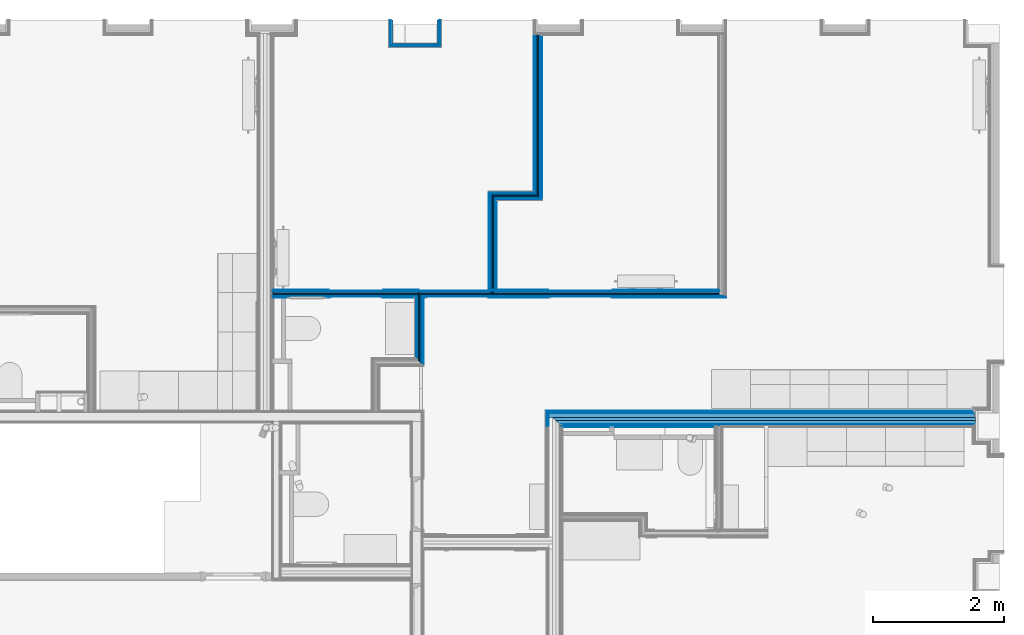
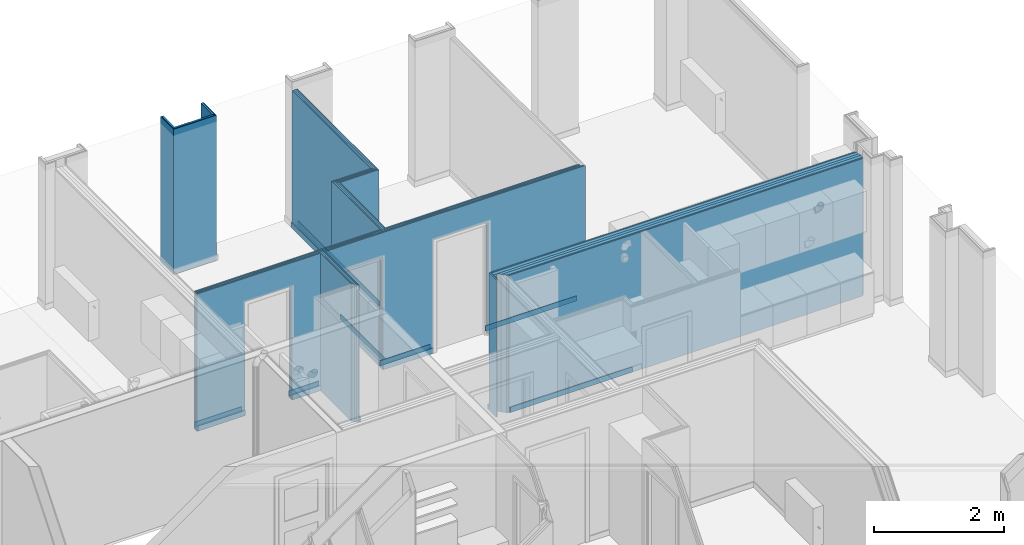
# One storey, part 22 of 85: 62 building element parts, 3 openings, 11 elements without a shape of their own.
"""IFC2X3 building model written with IfcOpenShell, lengths in metres."""

from ifc_helpers import new_model, entity, si_unit, converted_unit, derived_unit, money_unit, direction, frame, frame_2d, origin_with_axes, place, context, subcontext, project, spatial, polyline, rectangle, outline, extrude, material, type_object, element, aggregate, save


model = new_model("IFC2X3")

# Units and contexts
model_context = context("Model", 3, precision=1e-05, world=origin_with_axes(), true_north=direction((0.0, 1.0)))
body_context = subcontext(model_context, "Body", "Model", "MODEL_VIEW", scale=1.0)
ifc_project = project(units=[si_unit("LENGTHUNIT", "METRE"), si_unit("AREAUNIT", "SQUARE_METRE"), si_unit("VOLUMEUNIT", "CUBIC_METRE"), si_unit("ABSORBEDDOSEUNIT", "GRAY"), si_unit("AMOUNTOFSUBSTANCEUNIT", "MOLE"), si_unit("DOSEEQUIVALENTUNIT", "SIEVERT"), si_unit("ELECTRICCAPACITANCEUNIT", "FARAD"), si_unit("ELECTRICCHARGEUNIT", "COULOMB"), si_unit("ELECTRICCONDUCTANCEUNIT", "SIEMENS"), si_unit("ELECTRICCURRENTUNIT", "AMPERE"), si_unit("ELECTRICRESISTANCEUNIT", "OHM"), si_unit("ELECTRICVOLTAGEUNIT", "VOLT"), si_unit("ENERGYUNIT", "JOULE"), si_unit("FORCEUNIT", "NEWTON"), si_unit("FREQUENCYUNIT", "HERTZ"), si_unit("ILLUMINANCEUNIT", "LUX"), si_unit("INDUCTANCEUNIT", "HENRY"), si_unit("LUMINOUSFLUXUNIT", "LUMEN"), si_unit("LUMINOUSINTENSITYUNIT", "CANDELA"), si_unit("MAGNETICFLUXDENSITYUNIT", "TESLA"), si_unit("MAGNETICFLUXUNIT", "WEBER"), si_unit("MASSUNIT", "GRAM"), converted_unit("PLANEANGLEUNIT", "degree", entity("IfcReal", 0.0174532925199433), si_unit("PLANEANGLEUNIT", "RADIAN"), dimensions=[0, 0, 0, 0, 0, 0, 0]), si_unit("POWERUNIT", "WATT"), si_unit("PRESSUREUNIT", "PASCAL"), si_unit("RADIOACTIVITYUNIT", "BECQUEREL"), si_unit("SOLIDANGLEUNIT", "STERADIAN"), si_unit("THERMODYNAMICTEMPERATUREUNIT", "KELVIN"), si_unit("TIMEUNIT", "SECOND"), derived_unit("ACCELERATIONUNIT", [(si_unit("LENGTHUNIT", "METRE"), 1), (si_unit("TIMEUNIT", "SECOND"), -2)]), derived_unit("ANGULARVELOCITYUNIT", [(converted_unit("PLANEANGLEUNIT", "degree", entity("IfcReal", 0.0174532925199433), si_unit("PLANEANGLEUNIT", "RADIAN"), dimensions=[0, 0, 0, 0, 0, 0, 0]), 1), (si_unit("TIMEUNIT", "SECOND"), -1)]), derived_unit("CURVATUREUNIT", [(converted_unit("PLANEANGLEUNIT", "degree", entity("IfcReal", 0.0174532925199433), si_unit("PLANEANGLEUNIT", "RADIAN"), dimensions=[0, 0, 0, 0, 0, 0, 0]), 1), (si_unit("LENGTHUNIT", "METRE"), -1)]), derived_unit("DYNAMICVISCOSITYUNIT", [(si_unit("PRESSUREUNIT", "PASCAL"), 1), (si_unit("TIMEUNIT", "SECOND"), 1)]), derived_unit("HEATFLUXDENSITYUNIT", [(si_unit("POWERUNIT", "WATT"), 1), (si_unit("LENGTHUNIT", "METRE"), -2)]), derived_unit("HEATINGVALUEUNIT", [(si_unit("ENERGYUNIT", "JOULE"), 1), (si_unit("MASSUNIT", "GRAM"), -1)]), derived_unit("INTEGERCOUNTRATEUNIT", [(si_unit("TIMEUNIT", "SECOND"), -1)]), derived_unit("IONCONCENTRATIONUNIT", [(si_unit("MASSUNIT", "GRAM"), 1), (si_unit("VOLUMEUNIT", "CUBIC_METRE"), -1)]), derived_unit("ISOTHERMALMOISTURECAPACITYUNIT", [(si_unit("VOLUMEUNIT", "CUBIC_METRE"), 1), (si_unit("MASSUNIT", "GRAM"), -1)]), derived_unit("KINEMATICVISCOSITYUNIT", [(si_unit("AREAUNIT", "SQUARE_METRE"), 1), (si_unit("TIMEUNIT", "SECOND"), -1)]), derived_unit("LINEARFORCEUNIT", [(si_unit("FORCEUNIT", "NEWTON"), 1), (si_unit("LENGTHUNIT", "METRE"), -1)]), derived_unit("LINEARMOMENTUNIT", [(si_unit("FORCEUNIT", "NEWTON"), 1), (si_unit("LENGTHUNIT", "METRE"), -1)]), derived_unit("LINEARSTIFFNESSUNIT", [(si_unit("FORCEUNIT", "NEWTON"), 1), (si_unit("LENGTHUNIT", "METRE"), -1)]), derived_unit("LINEARVELOCITYUNIT", [(si_unit("LENGTHUNIT", "METRE"), 1), (si_unit("TIMEUNIT", "SECOND"), -1)]), derived_unit("LUMINOUSINTENSITYDISTRIBUTIONUNIT", [(si_unit("LUMINOUSINTENSITYUNIT", "CANDELA"), 1), (si_unit("LUMINOUSFLUXUNIT", "LUMEN"), -1)]), derived_unit("MASSDENSITYUNIT", [(si_unit("MASSUNIT", "GRAM"), 1), (si_unit("VOLUMEUNIT", "CUBIC_METRE"), -1)]), derived_unit("MASSFLOWRATEUNIT", [(si_unit("MASSUNIT", "GRAM"), 1), (si_unit("TIMEUNIT", "SECOND"), -1)]), derived_unit("MASSPERLENGTHUNIT", [(si_unit("MASSUNIT", "GRAM"), 1), (si_unit("LENGTHUNIT", "METRE"), -1)]), derived_unit("MODULUSOFELASTICITYUNIT", [(si_unit("FORCEUNIT", "NEWTON"), 1), (si_unit("AREAUNIT", "SQUARE_METRE"), -1)]), derived_unit("MODULUSOFLINEARSUBGRADEREACTIONUNIT", [(si_unit("FORCEUNIT", "NEWTON"), 1), (si_unit("LENGTHUNIT", "METRE"), -2)]), derived_unit("MODULUSOFROTATIONALSUBGRADEREACTIONUNIT", [(si_unit("FORCEUNIT", "NEWTON"), 1), (si_unit("LENGTHUNIT", "METRE"), 1)]), derived_unit("MODULUSOFSUBGRADEREACTIONUNIT", [(si_unit("FORCEUNIT", "NEWTON"), 1), (si_unit("VOLUMEUNIT", "CUBIC_METRE"), -1)]), derived_unit("MOISTUREDIFFUSIVITYUNIT", [(si_unit("VOLUMEUNIT", "CUBIC_METRE"), 1), (si_unit("TIMEUNIT", "SECOND"), -1)]), derived_unit("MOLECULARWEIGHTUNIT", [(si_unit("MASSUNIT", "GRAM"), 1), (si_unit("AMOUNTOFSUBSTANCEUNIT", "MOLE"), -1)]), derived_unit("PLANARFORCEUNIT", [(si_unit("FORCEUNIT", "NEWTON"), 1), (si_unit("LENGTHUNIT", "METRE"), -2)]), derived_unit("ROTATIONALFREQUENCYUNIT", [(si_unit("TIMEUNIT", "SECOND"), -1)]), derived_unit("ROTATIONALMASSUNIT", [(si_unit("MASSUNIT", "GRAM"), 1), (si_unit("LENGTHUNIT", "METRE"), 2)]), derived_unit("ROTATIONALSTIFFNESSUNIT", [(si_unit("FORCEUNIT", "NEWTON"), 1), (si_unit("LENGTHUNIT", "METRE"), 1), (converted_unit("PLANEANGLEUNIT", "degree", entity("IfcReal", 0.0174532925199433), si_unit("PLANEANGLEUNIT", "RADIAN"), dimensions=[0, 0, 0, 0, 0, 0, 0]), -1)]), derived_unit("SECTIONAREAINTEGRALUNIT", [(si_unit("LENGTHUNIT", "METRE"), 5)]), derived_unit("SECTIONMODULUSUNIT", [(si_unit("LENGTHUNIT", "METRE"), 3)]), derived_unit("SHEARMODULUSUNIT", [(si_unit("FORCEUNIT", "NEWTON"), 1), (si_unit("AREAUNIT", "SQUARE_METRE"), -1)]), derived_unit("SOUNDPOWERUNIT", [(si_unit("ENERGYUNIT", "JOULE"), 1), (si_unit("TIMEUNIT", "SECOND"), -1)]), derived_unit("SPECIFICHEATCAPACITYUNIT", [(si_unit("FORCEUNIT", "NEWTON"), 1), (si_unit("MASSUNIT", "GRAM"), -1), (si_unit("THERMODYNAMICTEMPERATUREUNIT", "KELVIN"), -1)]), derived_unit("TEMPERATUREGRADIENTUNIT", [(si_unit("THERMODYNAMICTEMPERATUREUNIT", "KELVIN"), 1), (si_unit("LENGTHUNIT", "METRE"), -1)]), derived_unit("THERMALADMITTANCEUNIT", [(si_unit("POWERUNIT", "WATT"), 1), (si_unit("AREAUNIT", "SQUARE_METRE"), -1), (si_unit("THERMODYNAMICTEMPERATUREUNIT", "KELVIN"), -1)]), derived_unit("THERMALCONDUCTANCEUNIT", [(si_unit("POWERUNIT", "WATT"), 1), (si_unit("LENGTHUNIT", "METRE"), -1), (si_unit("THERMODYNAMICTEMPERATUREUNIT", "KELVIN"), -1)]), derived_unit("THERMALEXPANSIONCOEFFICIENTUNIT", [(si_unit("THERMODYNAMICTEMPERATUREUNIT", "KELVIN"), -1)]), derived_unit("THERMALRESISTANCEUNIT", [(si_unit("AREAUNIT", "SQUARE_METRE"), 1), (si_unit("POWERUNIT", "WATT"), -1)]), derived_unit("THERMALTRANSMITTANCEUNIT", [(si_unit("POWERUNIT", "WATT"), 1), (si_unit("AREAUNIT", "SQUARE_METRE"), -1), (si_unit("THERMODYNAMICTEMPERATUREUNIT", "KELVIN"), -1)]), derived_unit("TORQUEUNIT", [(si_unit("FORCEUNIT", "NEWTON"), 1), (si_unit("LENGTHUNIT", "METRE"), 1)]), derived_unit("VAPORPERMEABILITYUNIT", [(si_unit("MASSUNIT", "GRAM"), 1), (si_unit("TIMEUNIT", "SECOND"), -1)]), derived_unit("VOLUMETRICFLOWRATEUNIT", [(si_unit("VOLUMEUNIT", "CUBIC_METRE"), 1), (si_unit("TIMEUNIT", "SECOND"), -1)]), derived_unit("WARPINGCONSTANTUNIT", [(si_unit("LENGTHUNIT", "METRE"), 6)]), derived_unit("WARPINGMOMENTUNIT", [(si_unit("FORCEUNIT", "NEWTON"), 1), (si_unit("LENGTHUNIT", "METRE"), 2)]), money_unit("GBP")], contexts=[model_context])

# Site, building, storey
site_placement = place(None, origin_with_axes())
site = spatial("IfcSite", under=ifc_project, at=site_placement, Name="Site", CompositionType="ELEMENT")
building_placement = place(site_placement, origin_with_axes())
building = spatial("IfcBuilding", under=site, at=building_placement, Name="Building01", CompositionType="ELEMENT")
storey_placement = place(building_placement, frame((0.0, 0.0, 12.13), z_axis=(0.0, 0.0, 1.0), x_axis=(1.0, 0.0, 0.0)))
storey = spatial("IfcBuildingStorey", under=building, at=storey_placement, Name="3F", CompositionType="ELEMENT", Elevation=12.13)

# Wall, building element parts
wall_type_1 = type_object("IfcWallType", Name="SHE_A-Walls_Type06d_ExternalWallInsulation_48mm", PredefinedType="NOTDEFINED")
wall_1_placement = place(storey_placement, frame((18.22, 14.8, 0.0), z_axis=(0.0, 0.0, 1.0), x_axis=(0.0, -1.0, 0.0)))
wall_1 = element("IfcWall", 1, at=wall_1_placement, inside=storey, type_object=wall_type_1, Name="6D", ObjectType="SHE_A-Walls_Type06d_ExternalWallInsulation_48mm")
ifc_material_1 = material(Name="A_BSUK_Insulation")
placement_1 = place(wall_1_placement, origin_with_axes())
building_element_part_1 = element("IfcBuildingElementPart", 2, at=placement_1, material=ifc_material_1, Name="1", context=body_context, shape_type="SweptSolid", body=[
    extrude(outline(polyline([(0.386, 0.036), (0.0, 0.036), (0.0, 0.0), (0.35, 0.0), (0.386, 0.036)])), origin_with_axes(), (0.0, 0.0, 1.0), 2.74),
])
ifc_material_2 = material(Name="A_BSUK_WallInternal_Finishes_Plasterboard")
building_element_part_2 = element("IfcBuildingElementPart", 3, at=placement_1, material=ifc_material_2, Name="2", context=body_context, shape_type="SweptSolid", body=[
    extrude(outline(polyline([(0.398, 0.048), (0.0, 0.048), (0.0, 0.035), (0.385, 0.035), (0.398, 0.048)])), origin_with_axes(), (0.0, 0.0, 1.0), 2.74),
])
aggregate(wall_1, [building_element_part_1, building_element_part_2])

wall_2_placement = place(storey_placement, frame((18.22, 14.45, 0.0), z_axis=(0.0, 0.0, 1.0), x_axis=(-1.0, 0.0, 0.0)))
wall_2 = element("IfcWall", 4, at=wall_2_placement, inside=storey, type_object=wall_type_1, Name="6D", ObjectType="SHE_A-Walls_Type06d_ExternalWallInsulation_48mm")
placement_2 = place(wall_2_placement, origin_with_axes())
building_element_part_3 = element("IfcBuildingElementPart", 5, at=placement_2, material=ifc_material_1, Name="1", context=body_context, shape_type="SweptSolid", body=[
    extrude(outline(polyline([(0.706, 0.036), (-0.036, 0.036), (0.0, 0.0), (0.67, 0.0), (0.706, 0.036)])), origin_with_axes(), (0.0, 0.0, 1.0), 2.74),
])
building_element_part_4 = element("IfcBuildingElementPart", 6, at=placement_2, material=ifc_material_2, Name="2", context=body_context, shape_type="SweptSolid", body=[
    extrude(outline(polyline([(0.718, 0.048), (-0.048, 0.048), (-0.035, 0.035), (0.705, 0.035), (0.718, 0.048)])), origin_with_axes(), (0.0, 0.0, 1.0), 2.74),
])
aggregate(wall_2, [building_element_part_3, building_element_part_4])

wall_3_placement = place(storey_placement, frame((17.55, 14.45, 0.0), z_axis=(0.0, 0.0, 1.0), x_axis=(0.0, 1.0, 0.0)))
wall_3 = element("IfcWall", 7, at=wall_3_placement, inside=storey, type_object=wall_type_1, Name="6D", ObjectType="SHE_A-Walls_Type06d_ExternalWallInsulation_48mm")
placement_3 = place(wall_3_placement, origin_with_axes())
building_element_part_5 = element("IfcBuildingElementPart", 8, at=placement_3, material=ifc_material_1, Name="1", context=body_context, shape_type="SweptSolid", body=[
    extrude(outline(polyline([(-0.036, 0.036), (0.0, 0.0), (0.35, 0.0), (0.35, 0.036), (-0.036, 0.036)])), origin_with_axes(), (0.0, 0.0, 1.0), 2.74),
])
building_element_part_6 = element("IfcBuildingElementPart", 9, at=placement_3, material=ifc_material_2, Name="2", context=body_context, shape_type="SweptSolid", body=[
    extrude(outline(polyline([(-0.048, 0.048), (-0.035, 0.035), (0.35, 0.035), (0.35, 0.048), (-0.048, 0.048)])), origin_with_axes(), (0.0, 0.0, 1.0), 2.74),
])
aggregate(wall_3, [building_element_part_5, building_element_part_6])

wall_type_2 = type_object("IfcWallType", Name="SHE_A-Walls_Type05a_Partition_95mm_tall", PredefinedType="NOTDEFINED")
wall_4_placement = place(storey_placement, frame((19.775, 12.099378, 0.0), z_axis=(0.0, 0.0, 1.0), x_axis=(0.0, 1.0, 0.0)))
wall_4 = element("IfcWall", 10, at=wall_4_placement, inside=storey, type_object=wall_type_2, Name="5A", ObjectType="SHE_A-Walls_Type05a_Partition_95mm_tall")
ifc_material_3 = material(Name="A_BSUK_Walls_Timber")
placement_4 = place(wall_4_placement, origin_with_axes())
building_element_part_7 = element("IfcBuildingElementPart", 11, at=placement_4, material=ifc_material_3, Name="1", context=body_context, shape_type="SweptSolid", body=[
    extrude(outline(polyline([(2.467622, -0.035), (-0.035, -0.035), (-0.05, -0.05), (2.467622, -0.05), (2.467622, -0.035)])), frame((0.0, 0.0, 0.015), z_axis=(0.0, 0.0, 1.0), x_axis=(1.0, 0.0, 0.0)), (0.0, 0.0, 1.0), 0.1),
])
building_element_part_8 = element("IfcBuildingElementPart", 12, at=placement_4, material=ifc_material_2, Name="2", context=body_context, shape_type="SweptSolid", body=[
    extrude(outline(polyline([(2.482622, -0.023), (-0.023, -0.023), (-0.035, -0.035), (2.482622, -0.035), (2.482622, -0.023)])), origin_with_axes(), (0.0, 0.0, 1.0), 2.59),
])
ifc_material_4 = material(Name="Air Cavity")
building_element_part_9 = element("IfcBuildingElementPart", 13, at=placement_4, material=ifc_material_4, Name="3", context=body_context, shape_type="SweptSolid", body=[
    extrude(outline(polyline([(2.482622, 0.0), (0.0, 0.0), (-0.023, -0.023), (2.482622, -0.023), (2.482622, 0.0)])), origin_with_axes(), (0.0, 0.0, 1.0), 2.59),
])
building_element_part_10 = element("IfcBuildingElementPart", 14, at=placement_4, material=ifc_material_1, Name="4", context=body_context, shape_type="SweptSolid", body=[
    extrude(outline(polyline([(2.482622, 0.025), (0.025, 0.025), (0.0, 0.0), (2.482622, 0.0), (2.482622, 0.025)])), origin_with_axes(), (0.0, 0.0, 1.0), 2.59),
])
building_element_part_11 = element("IfcBuildingElementPart", 15, at=placement_4, material=ifc_material_4, Name="5", context=body_context, shape_type="SweptSolid", body=[
    extrude(outline(polyline([(2.482622, 0.048), (0.048, 0.048), (0.025, 0.025), (2.482622, 0.025), (2.482622, 0.048)])), origin_with_axes(), (0.0, 0.0, 1.0), 2.59),
])
building_element_part_12 = element("IfcBuildingElementPart", 16, at=placement_4, material=ifc_material_2, Name="6", context=body_context, shape_type="SweptSolid", body=[
    extrude(outline(polyline([(2.482622, 0.06), (0.06, 0.06), (0.048, 0.048), (2.482622, 0.048), (2.482622, 0.06)])), origin_with_axes(), (0.0, 0.0, 1.0), 2.59),
])
building_element_part_13 = element("IfcBuildingElementPart", 17, at=placement_4, material=ifc_material_3, Name="7", context=body_context, shape_type="SweptSolid", body=[
    extrude(outline(polyline([(2.482622, 0.075), (0.075, 0.075), (0.06, 0.06), (2.482622, 0.06), (2.482622, 0.075)])), frame((0.0, 0.0, 0.015), z_axis=(0.0, 0.0, 1.0), x_axis=(1.0, 0.0, 0.0)), (0.0, 0.0, 1.0), 0.1),
])
aggregate(wall_4, [building_element_part_7, building_element_part_8, building_element_part_9, building_element_part_10, building_element_part_11, building_element_part_12, building_element_part_13])

wall_5_placement = place(storey_placement, frame((19.085284, 12.099378, 0.0), z_axis=(0.0, 0.0, 1.0), x_axis=(1.0, 0.0, 0.0)))
wall_5 = element("IfcWall", 18, at=wall_5_placement, inside=storey, type_object=wall_type_2, Name="5A", ObjectType="SHE_A-Walls_Type05a_Partition_95mm_tall")
placement_5 = place(wall_5_placement, origin_with_axes())
building_element_part_14 = element("IfcBuildingElementPart", 19, at=placement_5, material=ifc_material_2, Name="2", context=body_context, shape_type="SweptSolid", body=[
    extrude(outline(polyline([(0.712716, -0.023), (0.023, -0.023), (0.035, -0.035), (0.724716, -0.035), (0.712716, -0.023)])), origin_with_axes(), (0.0, 0.0, 1.0), 2.59),
])
building_element_part_15 = element("IfcBuildingElementPart", 20, at=placement_5, material=ifc_material_4, Name="3", context=body_context, shape_type="SweptSolid", body=[
    extrude(outline(polyline([(0.689716, 0.0), (0.0, 0.0), (0.023, -0.023), (0.712716, -0.023), (0.689716, 0.0)])), origin_with_axes(), (0.0, 0.0, 1.0), 2.59),
])
building_element_part_16 = element("IfcBuildingElementPart", 21, at=placement_5, material=ifc_material_1, Name="4", context=body_context, shape_type="SweptSolid", body=[
    extrude(outline(polyline([(0.664716, 0.025), (-0.025, 0.025), (0.0, 0.0), (0.689716, 0.0), (0.664716, 0.025)])), origin_with_axes(), (0.0, 0.0, 1.0), 2.59),
])
building_element_part_17 = element("IfcBuildingElementPart", 22, at=placement_5, material=ifc_material_4, Name="5", context=body_context, shape_type="SweptSolid", body=[
    extrude(outline(polyline([(0.641716, 0.048), (-0.048, 0.048), (-0.025, 0.025), (0.664716, 0.025), (0.641716, 0.048)])), origin_with_axes(), (0.0, 0.0, 1.0), 2.59),
])
building_element_part_18 = element("IfcBuildingElementPart", 23, at=placement_5, material=ifc_material_2, Name="6", context=body_context, shape_type="SweptSolid", body=[
    extrude(outline(polyline([(0.629716, 0.06), (-0.06, 0.06), (-0.048, 0.048), (0.641716, 0.048), (0.629716, 0.06)])), origin_with_axes(), (0.0, 0.0, 1.0), 2.59),
])
aggregate(wall_5, [building_element_part_14, building_element_part_15, building_element_part_16, building_element_part_17, building_element_part_18])

wall_6_placement = place(storey_placement, frame((19.085284, 10.63, 0.0), z_axis=(0.0, 0.0, 1.0), x_axis=(0.0, 1.0, 0.0)))
wall_6 = element("IfcWall", 24, at=wall_6_placement, inside=storey, type_object=wall_type_2, Name="5A", ObjectType="SHE_A-Walls_Type05a_Partition_95mm_tall")
placement_6 = place(wall_6_placement, origin_with_axes())
building_element_part_19 = element("IfcBuildingElementPart", 25, at=placement_6, material=ifc_material_3, Name="1", context=body_context, shape_type="SweptSolid", body=[
    extrude(outline(polyline([(1.434378, -0.035), (0.05, -0.035), (0.05, -0.05), (1.419378, -0.05), (1.434378, -0.035)])), frame((0.0, 0.0, 0.015), z_axis=(0.0, 0.0, 1.0), x_axis=(1.0, 0.0, 0.0)), (0.0, 0.0, 1.0), 0.1),
])
building_element_part_20 = element("IfcBuildingElementPart", 26, at=placement_6, material=ifc_material_2, Name="2", context=body_context, shape_type="SweptSolid", body=[
    extrude(outline(polyline([(1.446378, -0.023), (0.035, -0.023), (0.035, -0.035), (1.434378, -0.035), (1.446378, -0.023)])), origin_with_axes(), (0.0, 0.0, 1.0), 2.59),
])
building_element_part_21 = element("IfcBuildingElementPart", 27, at=placement_6, material=ifc_material_4, Name="3", context=body_context, shape_type="SweptSolid", body=[
    extrude(outline(polyline([(1.469378, 0.0), (0.035, 0.0), (0.035, -0.023), (1.446378, -0.023), (1.469378, 0.0)])), origin_with_axes(), (0.0, 0.0, 1.0), 2.59),
])
building_element_part_22 = element("IfcBuildingElementPart", 28, at=placement_6, material=ifc_material_1, Name="4", context=body_context, shape_type="SweptSolid", body=[
    extrude(outline(polyline([(1.494378, 0.025), (0.0, 0.025), (0.0, 0.0), (1.469378, 0.0), (1.494378, 0.025)])), origin_with_axes(), (0.0, 0.0, 1.0), 2.59),
])
building_element_part_23 = element("IfcBuildingElementPart", 29, at=placement_6, material=ifc_material_4, Name="5", context=body_context, shape_type="SweptSolid", body=[
    extrude(outline(polyline([(1.517378, 0.048), (0.0, 0.048), (0.0, 0.025), (1.494378, 0.025), (1.517378, 0.048)])), origin_with_axes(), (0.0, 0.0, 1.0), 2.59),
])
building_element_part_24 = element("IfcBuildingElementPart", 30, at=placement_6, material=ifc_material_2, Name="6", context=body_context, shape_type="SweptSolid", body=[
    extrude(outline(polyline([(1.529378, 0.06), (0.035, 0.06), (0.035, 0.048), (1.517378, 0.048), (1.529378, 0.06)])), origin_with_axes(), (0.0, 0.0, 1.0), 2.59),
])
building_element_part_25 = element("IfcBuildingElementPart", 31, at=placement_6, material=ifc_material_3, Name="7", context=body_context, shape_type="SweptSolid", body=[
    extrude(outline(polyline([(1.544378, 0.075), (0.05, 0.075), (0.035, 0.06), (1.529378, 0.06), (1.544378, 0.075)])), frame((0.0, 0.0, 0.015), z_axis=(0.0, 0.0, 1.0), x_axis=(1.0, 0.0, 0.0)), (0.0, 0.0, 1.0), 0.1),
])
aggregate(wall_6, [building_element_part_19, building_element_part_20, building_element_part_21, building_element_part_22, building_element_part_23, building_element_part_24, building_element_part_25])

wall_type_3 = type_object("IfcWallType", Name="SHE_A-Walls_Type01c_Partywall_225mm_twin_tall", PredefinedType="NOTDEFINED")
wall_7_placement = place(storey_placement, frame((26.444, 8.732, 0.0), z_axis=(0.0, 0.0, 1.0), x_axis=(-1.0, 0.0, 0.0)))
wall_7 = element("IfcWall", 32, at=wall_7_placement, inside=storey, type_object=wall_type_3, Name="1C", ObjectType="SHE_A-Walls_Type01c_Partywall_225mm_twin_tall")
placement_7 = place(wall_7_placement, origin_with_axes())
building_element_part_26 = element("IfcBuildingElementPart", 33, at=placement_7, material=ifc_material_3, Name="1", context=body_context, shape_type="SweptSolid", body=[
    extrude(outline(polyline([(6.546339, -0.088), (0.042, -0.088), (0.042, -0.103), (6.561339, -0.103), (6.546339, -0.088)])), frame((0.0, 0.0, 0.015), z_axis=(0.0, 0.0, 1.0), x_axis=(1.0, 0.0, 0.0)), (0.0, 0.0, 1.0), 0.1),
])
building_element_part_27 = element("IfcBuildingElementPart", 34, at=placement_7, material=ifc_material_2, Name="2", context=body_context, shape_type="SweptSolid", body=[
    extrude(rectangle(XDim=6.504339, YDim=0.015, at=frame_2d((3.279169, -0.0805), x_axis=(-1.0, 0.0))), origin_with_axes(), (0.0, 0.0, 1.0), 2.59),
])
building_element_part_28 = element("IfcBuildingElementPart", 35, at=placement_7, material=ifc_material_2, Name="3", context=body_context, shape_type="SweptSolid", body=[
    extrude(rectangle(XDim=6.504339, YDim=0.015, at=frame_2d((3.264169, -0.0655), x_axis=(-1.0, 0.0))), origin_with_axes(), (0.0, 0.0, 1.0), 2.59),
])
building_element_part_29 = element("IfcBuildingElementPart", 36, at=placement_7, material=ifc_material_4, Name="4", context=body_context, shape_type="SweptSolid", body=[
    extrude(rectangle(XDim=6.504339, YDim=0.058, at=frame_2d((3.264169, -0.029), x_axis=(-1.0, 0.0))), origin_with_axes(), (0.0, 0.0, 1.0), 2.59),
])
building_element_part_30 = element("IfcBuildingElementPart", 37, at=placement_7, material=ifc_material_1, Name="5", context=body_context, shape_type="SweptSolid", body=[
    extrude(outline(polyline([(6.408339, 0.05), (0.0, 0.05), (0.0, 0.0), (6.458339, 0.0), (6.408339, 0.05)])), origin_with_axes(), (0.0, 0.0, 1.0), 2.59),
])
building_element_part_31 = element("IfcBuildingElementPart", 38, at=placement_7, material=ifc_material_4, Name="6", context=body_context, shape_type="SweptSolid", body=[
    extrude(outline(polyline([(6.351339, 0.107), (0.0, 0.107), (0.0, 0.05), (6.408339, 0.05), (6.351339, 0.107)])), origin_with_axes(), (0.0, 0.0, 1.0), 2.59),
])
building_element_part_32 = element("IfcBuildingElementPart", 39, at=placement_7, material=ifc_material_2, Name="7", context=body_context, shape_type="SweptSolid", body=[
    extrude(rectangle(XDim=0.015, YDim=6.351339, at=frame_2d((3.175669, 0.1145), x_axis=(0.0, -1.0))), origin_with_axes(), (0.0, 0.0, 1.0), 2.59),
])
building_element_part_33 = element("IfcBuildingElementPart", 40, at=placement_7, material=ifc_material_2, Name="8", context=body_context, shape_type="SweptSolid", body=[
    extrude(rectangle(XDim=6.309339, YDim=0.015, at=frame_2d((3.166669, 0.1295), x_axis=(-1.0, 0.0))), origin_with_axes(), (0.0, 0.0, 1.0), 2.59),
])
building_element_part_34 = element("IfcBuildingElementPart", 41, at=placement_7, material=ifc_material_3, Name="9", context=body_context, shape_type="SweptSolid", body=[
    extrude(outline(polyline([(6.306339, 0.152), (4.132339, 0.152), (4.117339, 0.137), (6.321339, 0.137), (6.306339, 0.152)])), frame((0.0, 0.0, 0.015), z_axis=(0.0, 0.0, 1.0), x_axis=(1.0, 0.0, 0.0)), (0.0, 0.0, 1.0), 0.1),
])
building_element_part_35 = element("IfcBuildingElementPart", 42, at=placement_7, material=ifc_material_3, Name="10", context=body_context, shape_type="SweptSolid", body=[
    extrude(outline(polyline([(6.306339, 0.152), (4.132339, 0.152), (4.117339, 0.137), (6.321339, 0.137), (6.306339, 0.152)])), frame((0.0, 0.0, 0.015), z_axis=(0.0, 0.0, 1.0), x_axis=(1.0, 0.0, 0.0)), (0.0, 0.0, 1.0), 0.1),
])
building_element_part_36 = element("IfcBuildingElementPart", 43, at=placement_7, material=ifc_material_3, Name="12", context=body_context, shape_type="SweptSolid", body=[
    extrude(outline(polyline([(6.321339, 0.152), (3.967339, 0.152), (3.967339, 0.137), (6.336339, 0.137), (6.321339, 0.152)])), frame((0.0, 0.0, 0.015), z_axis=(0.0, 0.0, 1.0), x_axis=(1.0, 0.0, 0.0)), (0.0, 0.0, 1.0), 0.1),
])
aggregate(wall_7, [building_element_part_26, building_element_part_27, building_element_part_28, building_element_part_29, building_element_part_30, building_element_part_31, building_element_part_32, building_element_part_33, building_element_part_34, building_element_part_35, building_element_part_36])

wall_8_placement = place(storey_placement, frame((19.985661, 8.732, 0.0), z_axis=(0.0, 0.0, 1.0), x_axis=(0.0, -1.0, 0.0)))
wall_8 = element("IfcWall", 44, at=wall_8_placement, inside=storey, type_object=wall_type_3, Name="1C", ObjectType="SHE_A-Walls_Type01c_Partywall_225mm_twin_tall")
placement_8 = place(wall_8_placement, origin_with_axes())
building_element_part_37 = element("IfcBuildingElementPart", 45, at=placement_8, material=ifc_material_2, Name="4", context=body_context, shape_type="SweptSolid", body=[
    extrude(outline(polyline([(0.122, -0.073), (-0.088, -0.073), (-0.088, -0.088), (0.137, -0.088), (0.122, -0.073)])), origin_with_axes(), (0.0, 0.0, 1.0), 2.59),
])
building_element_part_38 = element("IfcBuildingElementPart", 46, at=placement_8, material=ifc_material_2, Name="7", context=body_context, shape_type="SweptSolid", body=[
    extrude(outline(polyline([(0.122, -0.058), (-0.073, -0.058), (-0.073, -0.073), (0.137, -0.073), (0.122, -0.058)])), origin_with_axes(), (0.0, 0.0, 1.0), 2.59),
])
aggregate(wall_8, [building_element_part_37, building_element_part_38])

# Wall, opening, building element parts
wall_9_placement = place(storey_placement, frame((17.94, 10.63, 0.0), z_axis=(0.0, 0.0, 1.0), x_axis=(-1.0, 0.0, 0.0)))
wall_9 = element("IfcWall", 47, at=wall_9_placement, inside=storey, type_object=wall_type_2, Name="5A", ObjectType="SHE_A-Walls_Type05a_Partition_95mm_tall")
opening_1_placement = place(wall_9_placement, frame((0.540552, -0.05, 0.0), z_axis=(0.0, 0.0, 1.0), x_axis=(1.0, 0.0, 0.0)))
element("IfcOpeningElement", 48, at=opening_1_placement, cuts=wall_9, Name="Opening", ObjectType="Opening", context=body_context, shape_type="SweptSolid", body=[
    extrude(rectangle(XDim=0.834, YDim=2.142, at=frame_2d((-0.417, 1.071), x_axis=(-1.0, 0.0))), frame((0.0, 0.0, 0.0), z_axis=(0.0, 1.0, 0.0), x_axis=(-1.0, 0.0, 0.0)), (0.0, 0.0, 1.0), 0.125),
])
placement_9 = place(wall_9_placement, origin_with_axes())
building_element_part_39 = element("IfcBuildingElementPart", 49, at=placement_9, material=ifc_material_3, Name="1", context=body_context, shape_type="SweptSolid", body=[
    extrude(rectangle(XDim=2.216868, YDim=0.015, at=frame_2d((1.108434, -0.0425), x_axis=(-1.0, 0.0))), frame((0.0, 0.0, 0.015), z_axis=(0.0, 0.0, 1.0), x_axis=(1.0, 0.0, 0.0)), (0.0, 0.0, 1.0), 0.1),
])
building_element_part_40 = element("IfcBuildingElementPart", 50, at=placement_9, material=ifc_material_2, Name="2", context=body_context, shape_type="SweptSolid", body=[
    extrude(rectangle(XDim=2.231868, YDim=0.012, at=frame_2d((1.115934, -0.029), x_axis=(-1.0, 0.0))), origin_with_axes(), (0.0, 0.0, 1.0), 2.59),
])
building_element_part_41 = element("IfcBuildingElementPart", 51, at=placement_9, material=ifc_material_4, Name="3", context=body_context, shape_type="SweptSolid", body=[
    extrude(rectangle(XDim=2.231868, YDim=0.023, at=frame_2d((1.115934, -0.0115), x_axis=(-1.0, 0.0))), origin_with_axes(), (0.0, 0.0, 1.0), 2.59),
])
building_element_part_42 = element("IfcBuildingElementPart", 52, at=placement_9, material=ifc_material_1, Name="4", context=body_context, shape_type="SweptSolid", body=[
    extrude(rectangle(XDim=2.231868, YDim=0.025, at=frame_2d((1.115934, 0.0125), x_axis=(-1.0, 0.0))), origin_with_axes(), (0.0, 0.0, 1.0), 2.59),
])
building_element_part_43 = element("IfcBuildingElementPart", 53, at=placement_9, material=ifc_material_4, Name="5", context=body_context, shape_type="SweptSolid", body=[
    extrude(rectangle(XDim=2.231868, YDim=0.023, at=frame_2d((1.115934, 0.0365), x_axis=(-1.0, 0.0))), origin_with_axes(), (0.0, 0.0, 1.0), 2.59),
])
building_element_part_44 = element("IfcBuildingElementPart", 54, at=placement_9, material=ifc_material_2, Name="6", context=body_context, shape_type="SweptSolid", body=[
    extrude(rectangle(XDim=2.208868, YDim=0.012, at=frame_2d((1.127434, 0.054), x_axis=(-1.0, 0.0))), origin_with_axes(), (0.0, 0.0, 1.0), 2.59),
])
building_element_part_45 = element("IfcBuildingElementPart", 55, at=placement_9, material=ifc_material_3, Name="7", context=body_context, shape_type="SweptSolid", body=[
    extrude(rectangle(XDim=2.181868, YDim=0.015, at=frame_2d((1.125934, 0.0675), x_axis=(-1.0, 0.0))), frame((0.0, 0.0, 0.015), z_axis=(0.0, 0.0, 1.0), x_axis=(1.0, 0.0, 0.0)), (0.0, 0.0, 1.0), 0.1),
])
aggregate(wall_9, [building_element_part_39, building_element_part_40, building_element_part_41, building_element_part_42, building_element_part_43, building_element_part_44, building_element_part_45])

# Wall, building element parts
wall_10_placement = place(storey_placement, frame((17.94, 9.585, 0.0), z_axis=(0.0, 0.0, 1.0), x_axis=(0.0, 1.0, 0.0)))
wall_10 = element("IfcWall", 56, at=wall_10_placement, inside=storey, type_object=wall_type_2, Name="5A", ObjectType="SHE_A-Walls_Type05a_Partition_95mm_tall")
placement_10 = place(wall_10_placement, origin_with_axes())
building_element_part_46 = element("IfcBuildingElementPart", 57, at=placement_10, material=ifc_material_3, Name="1", context=body_context, shape_type="SweptSolid", body=[
    extrude(outline(polyline([(0.97, -0.06), (-0.06, -0.06), (-0.075, -0.075), (0.97, -0.075), (0.97, -0.06)])), frame((0.0, 0.0, 0.015), z_axis=(0.0, 0.0, 1.0), x_axis=(1.0, 0.0, 0.0)), (0.0, 0.0, 1.0), 0.1),
])
building_element_part_47 = element("IfcBuildingElementPart", 58, at=placement_10, material=ifc_material_2, Name="2", context=body_context, shape_type="SweptSolid", body=[
    extrude(outline(polyline([(0.985, -0.048), (-0.048, -0.048), (-0.06, -0.06), (0.985, -0.06), (0.985, -0.048)])), origin_with_axes(), (0.0, 0.0, 1.0), 2.59),
])
building_element_part_48 = element("IfcBuildingElementPart", 59, at=placement_10, material=ifc_material_4, Name="3", context=body_context, shape_type="SweptSolid", body=[
    extrude(outline(polyline([(0.985, -0.025), (-0.025, -0.025), (-0.048, -0.048), (0.985, -0.048), (0.985, -0.025)])), origin_with_axes(), (0.0, 0.0, 1.0), 2.59),
])
building_element_part_49 = element("IfcBuildingElementPart", 60, at=placement_10, material=ifc_material_1, Name="4", context=body_context, shape_type="SweptSolid", body=[
    extrude(outline(polyline([(1.02, 0.0), (0.0, 0.0), (-0.025, -0.025), (1.02, -0.025), (1.02, 0.0)])), origin_with_axes(), (0.0, 0.0, 1.0), 2.59),
])
building_element_part_50 = element("IfcBuildingElementPart", 61, at=placement_10, material=ifc_material_4, Name="5", context=body_context, shape_type="SweptSolid", body=[
    extrude(outline(polyline([(1.02, 0.023), (0.023, 0.023), (0.0, 0.0), (1.02, 0.0), (1.02, 0.023)])), origin_with_axes(), (0.0, 0.0, 1.0), 2.59),
])
building_element_part_51 = element("IfcBuildingElementPart", 62, at=placement_10, material=ifc_material_2, Name="6", context=body_context, shape_type="SweptSolid", body=[
    extrude(outline(polyline([(0.985, 0.035), (0.035, 0.035), (0.023, 0.023), (0.985, 0.023), (0.985, 0.035)])), origin_with_axes(), (0.0, 0.0, 1.0), 2.59),
])
aggregate(wall_10, [building_element_part_46, building_element_part_47, building_element_part_48, building_element_part_49, building_element_part_50, building_element_part_51])

# Wall, openings, building element parts
wall_11_placement = place(storey_placement, frame((17.94, 10.605, 0.0), z_axis=(0.0, 0.0, 1.0), x_axis=(1.0, 0.0, 0.0)))
wall_11 = element("IfcWall", 63, at=wall_11_placement, inside=storey, type_object=wall_type_2, Name="5A", ObjectType="SHE_A-Walls_Type05a_Partition_95mm_tall")
opening_2_placement = place(wall_11_placement, frame((0.093398, -0.05, -0.015), z_axis=(0.0, 0.0, 1.0), x_axis=(1.0, 0.0, 0.0)))
element("IfcOpeningElement", 64, at=opening_2_placement, cuts=wall_11, Name="Opening", ObjectType="Opening", context=body_context, shape_type="SweptSolid", body=[
    extrude(rectangle(XDim=0.984, YDim=2.142, at=frame_2d((-0.492, 1.071), x_axis=(1.0, 0.0))), frame((0.0, 0.0, 0.0), z_axis=(0.0, 1.0, 0.0), x_axis=(-1.0, 0.0, 0.0)), (0.0, 0.0, 1.0), 0.125),
])
opening_3_placement = place(wall_11_placement, frame((1.978284, -0.05, -0.015), z_axis=(0.0, 0.0, 1.0), x_axis=(1.0, 0.0, 0.0)))
element("IfcOpeningElement", 65, at=opening_3_placement, cuts=wall_11, Name="Opening", ObjectType="Opening", context=body_context, shape_type="SweptSolid", body=[
    extrude(rectangle(XDim=0.984, YDim=2.142, at=frame_2d((-0.492, 1.071), x_axis=(-1.0, 0.0))), frame((0.0, 0.0, 0.0), z_axis=(0.0, 1.0, 0.0), x_axis=(-1.0, 0.0, 0.0)), (0.0, 0.0, 1.0), 0.125),
])
placement_11 = place(wall_11_placement, origin_with_axes())
building_element_part_52 = element("IfcBuildingElementPart", 66, at=placement_11, material=ifc_material_3, Name="1", context=body_context, shape_type="SweptSolid", body=[
    extrude(outline(polyline([(4.685, -0.035), (0.06, -0.035), (0.06, -0.05), (4.7, -0.05), (4.685, -0.035)])), frame((0.0, 0.0, 0.015), z_axis=(0.0, 0.0, 1.0), x_axis=(1.0, 0.0, 0.0)), (0.0, 0.0, 1.0), 0.1),
])
building_element_part_53 = element("IfcBuildingElementPart", 67, at=placement_11, material=ifc_material_2, Name="2", context=body_context, shape_type="SweptSolid", body=[
    extrude(outline(polyline([(4.673, -0.023), (0.048, -0.023), (0.048, -0.035), (4.685, -0.035), (4.673, -0.023)])), origin_with_axes(), (0.0, 0.0, 1.0), 2.59),
])
building_element_part_54 = element("IfcBuildingElementPart", 68, at=placement_11, material=ifc_material_4, Name="3", context=body_context, shape_type="SweptSolid", body=[
    extrude(outline(polyline([(4.65, 0.0), (0.048, 0.0), (0.048, -0.023), (4.673, -0.023), (4.65, 0.0)])), origin_with_axes(), (0.0, 0.0, 1.0), 2.59),
])
building_element_part_55 = element("IfcBuildingElementPart", 69, at=placement_11, material=ifc_material_1, Name="4", context=body_context, shape_type="SweptSolid", body=[
    extrude(rectangle(XDim=4.625, YDim=0.025, at=frame_2d((2.3125, 0.0125), x_axis=(-1.0, 0.0))), origin_with_axes(), (0.0, 0.0, 1.0), 2.59),
])
building_element_part_56 = element("IfcBuildingElementPart", 70, at=placement_11, material=ifc_material_4, Name="5", context=body_context, shape_type="SweptSolid", body=[
    extrude(rectangle(XDim=4.625, YDim=0.023, at=frame_2d((2.3125, 0.0365), x_axis=(-1.0, 0.0))), origin_with_axes(), (0.0, 0.0, 1.0), 2.59),
])
building_element_part_57 = element("IfcBuildingElementPart", 71, at=placement_11, material=ifc_material_2, Name="6", context=body_context, shape_type="SweptSolid", body=[
    extrude(rectangle(XDim=1.097284, YDim=0.012, at=frame_2d((0.548642, 0.054), x_axis=(-1.0, 0.0))), origin_with_axes(), (0.0, 0.0, 1.0), 2.59),
])
building_element_part_58 = element("IfcBuildingElementPart", 72, at=placement_11, material=ifc_material_2, Name="7", context=body_context, shape_type="SweptSolid", body=[
    extrude(outline(polyline([(4.59, 0.06), (1.168284, 0.06), (1.168284, 0.048), (4.602, 0.048), (4.59, 0.06)])), origin_with_axes(), (0.0, 0.0, 1.0), 2.59),
])
building_element_part_59 = element("IfcBuildingElementPart", 73, at=placement_11, material=ifc_material_3, Name="8", context=body_context, shape_type="SweptSolid", body=[
    extrude(rectangle(XDim=0.015, YDim=0.881, at=frame_2d((1.510784, 0.0675), x_axis=(0.0, -1.0))), frame((0.0, 0.0, 0.015), z_axis=(0.0, 0.0, 1.0), x_axis=(1.0, 0.0, 0.0)), (0.0, 0.0, 1.0), 0.1),
])
building_element_part_60 = element("IfcBuildingElementPart", 74, at=placement_11, material=ifc_material_3, Name="9", context=body_context, shape_type="SweptSolid", body=[
    extrude(outline(polyline([(4.575, 0.075), (1.070284, 0.075), (1.085284, 0.06), (4.59, 0.06), (4.575, 0.075)])), frame((0.0, 0.0, 0.015), z_axis=(0.0, 0.0, 1.0), x_axis=(1.0, 0.0, 0.0)), (0.0, 0.0, 1.0), 0.1),
])
building_element_part_61 = element("IfcBuildingElementPart", 75, at=placement_11, material=ifc_material_3, Name="10", context=body_context, shape_type="SweptSolid", body=[
    extrude(outline(polyline([(4.575, 0.075), (1.180284, 0.075), (1.180284, 0.06), (4.59, 0.06), (4.575, 0.075)])), frame((0.0, 0.0, 0.015), z_axis=(0.0, 0.0, 1.0), x_axis=(1.0, 0.0, 0.0)), (0.0, 0.0, 1.0), 0.1),
])
building_element_part_62 = element("IfcBuildingElementPart", 76, at=placement_11, material=ifc_material_3, Name="11", context=body_context, shape_type="SweptSolid", body=[
    extrude(outline(polyline([(4.575, 0.075), (2.920284, 0.075), (2.920284, 0.06), (4.59, 0.06), (4.575, 0.075)])), frame((0.0, 0.0, 0.015), z_axis=(0.0, 0.0, 1.0), x_axis=(1.0, 0.0, 0.0)), (0.0, 0.0, 1.0), 0.1),
])
aggregate(wall_11, [building_element_part_52, building_element_part_53, building_element_part_54, building_element_part_55, building_element_part_56, building_element_part_57, building_element_part_58, building_element_part_59, building_element_part_60, building_element_part_61, building_element_part_62])

save(model, "model.ifc")
